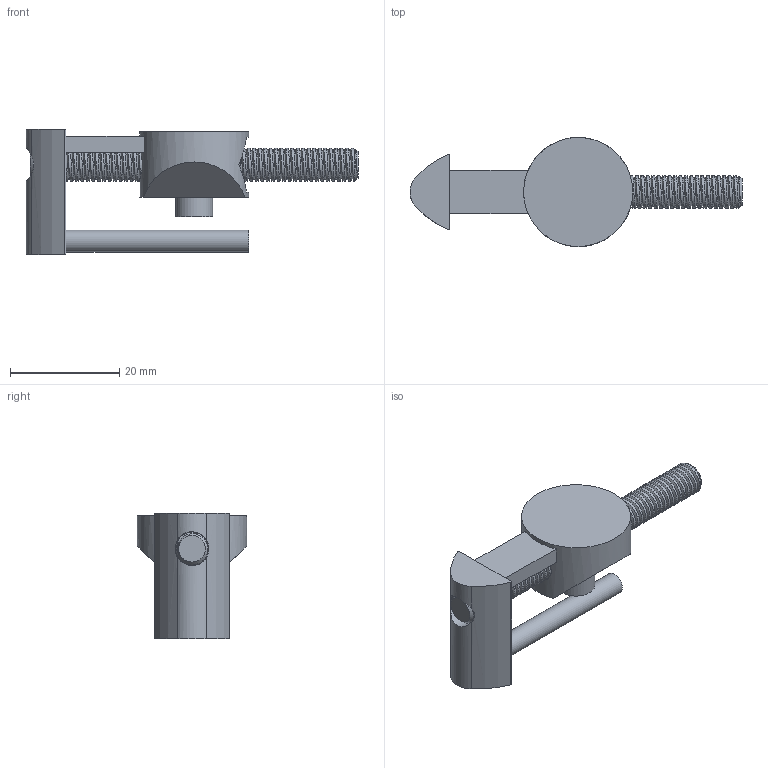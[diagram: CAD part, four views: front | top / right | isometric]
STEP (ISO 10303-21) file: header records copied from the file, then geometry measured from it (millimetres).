
FILE_DESCRIPTION( ( 'Unknown' ), '1' );
FILE_NAME( 'C:/Arbeitsverzeichnis/Verbinder/S208PUVS.stp', 'Unknown', ( 'A.Faul' ), ( 'Unknown' ), 'PSStep 10.0', 'Unknown', ' ' );
FILE_SCHEMA( ( 'AUTOMOTIVE_DESIGN { 1 0 10303 214 1 1 1 1 }' ) );
Length unit declared in the file: millimetre
Products named in the file (4): Assem1; S208PUVS Teil1; S208SIK630
Bounding box: 60.8 x 20 x 23 mm (x, y, z)
Volume: 11007.6 mm3; surface area: 9527.7 mm2
Topology: 6 solids, 6 shells, 100 faces, 258 edges, 172 vertices
Faces by surface type: plane 64, cylinder 26, cone 4, bspline 4, torus 2
Full cylindrical faces by diameter (mm): 4 x2, 6.2 x2, 6.8 x2, 10 x2, 20 x2
Entity records: 4573 total; most frequent: CARTESIAN_POINT 2990, DIRECTION 232, ORIENTED_EDGE 218, EDGE_CURVE 109, AXIS2_PLACEMENT_3D 89, VERTEX_POINT 77, EDGE_LOOP 65, FACE_OUTER_BOUND 56
